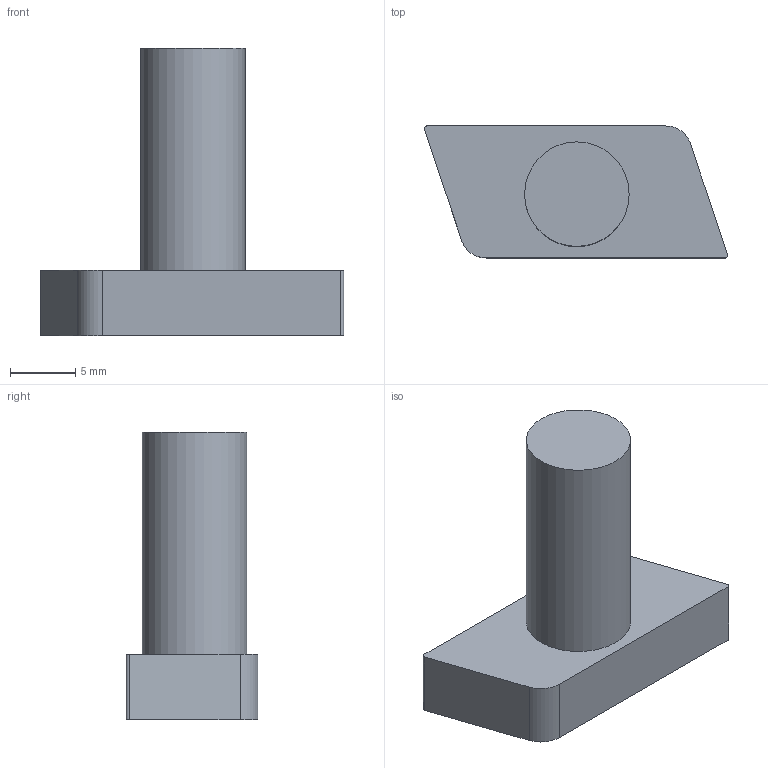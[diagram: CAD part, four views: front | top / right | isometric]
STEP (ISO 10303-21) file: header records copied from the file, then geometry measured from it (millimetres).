
FILE_DESCRIPTION((''),'2;1');
FILE_NAME('C:\Vault Klient\Projekt\Step\100-6060.stp','2009-12-10T12:40:27',('Mathias'),(''),'Autodesk Inventor 2010','Autodesk Inventor 2010','');
FILE_SCHEMA(('CONFIG_CONTROL_DESIGN'));
Length unit declared in the file: millimetre
Products named in the file (1): 100-6060
Bounding box: 23.21 x 10.11 x 22 mm (x, y, z)
Volume: 1861 mm3; surface area: 1130.7 mm2
Topology: 1 solids, 1 shells, 12 faces, 27 edges, 18 vertices
Faces by surface type: plane 7, cylinder 5
Full cylindrical faces by diameter (mm): 8 x1
Entity records: 362 total; most frequent: DIRECTION 62, CARTESIAN_POINT 57, ORIENTED_EDGE 52, EDGE_CURVE 26, AXIS2_PLACEMENT_3D 23, VERTEX_POINT 18, VECTOR 16, LINE 16
